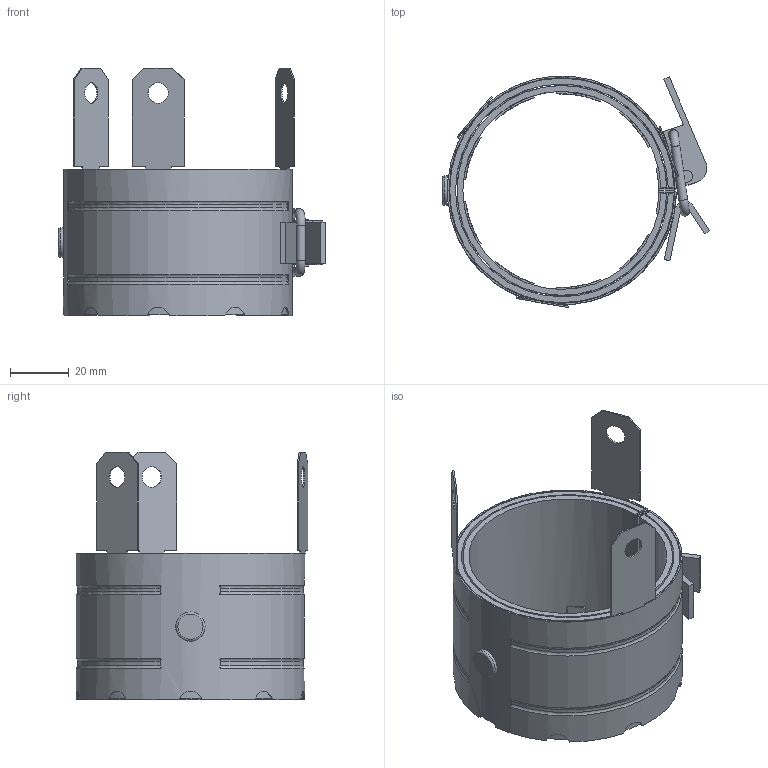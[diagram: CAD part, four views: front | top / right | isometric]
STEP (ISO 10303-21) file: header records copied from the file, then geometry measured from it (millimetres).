
FILE_DESCRIPTION(/* description */ (''),/* implementation_level */ '2;1');
FILE_NAME(/* name */ 'H:\Geberit-Teile\Export\RS90 plus\stp\348330.stp',/* time_stamp */ '2017-03-24T12:29:32+01:00',/* author */ ('seihe2'),/* organization */ (''),/* preprocessor_version */ 'ST-DEVELOPER v15.2',/* originating_system */ 'Autodesk Inventor 2014',/* authorisation */ '');
FILE_SCHEMA (('AUTOMOTIVE_DESIGN { 1 0 10303 214 3 1 1 }'));
Length unit declared in the file: millimetre
Products named in the file (1): 348330
Bounding box: 91 x 78.87 x 84.5 mm (x, y, z)
Volume: 54806.9 mm3; surface area: 80575.7 mm2
Topology: 2 solids, 2 shells, 243 faces, 716 edges, 447 vertices
Faces by surface type: plane 171, cylinder 59, torus 13
Full cylindrical faces by diameter (mm): 3 x3, 3.5 x2, 4 x3, 7 x3, 10 x1
Entity records: 8796 total; most frequent: CARTESIAN_POINT 1948, ORIENTED_EDGE 1396, DIRECTION 1378, EDGE_CURVE 694, AXIS2_PLACEMENT_3D 488, VERTEX_POINT 442, LINE 402, VECTOR 402
